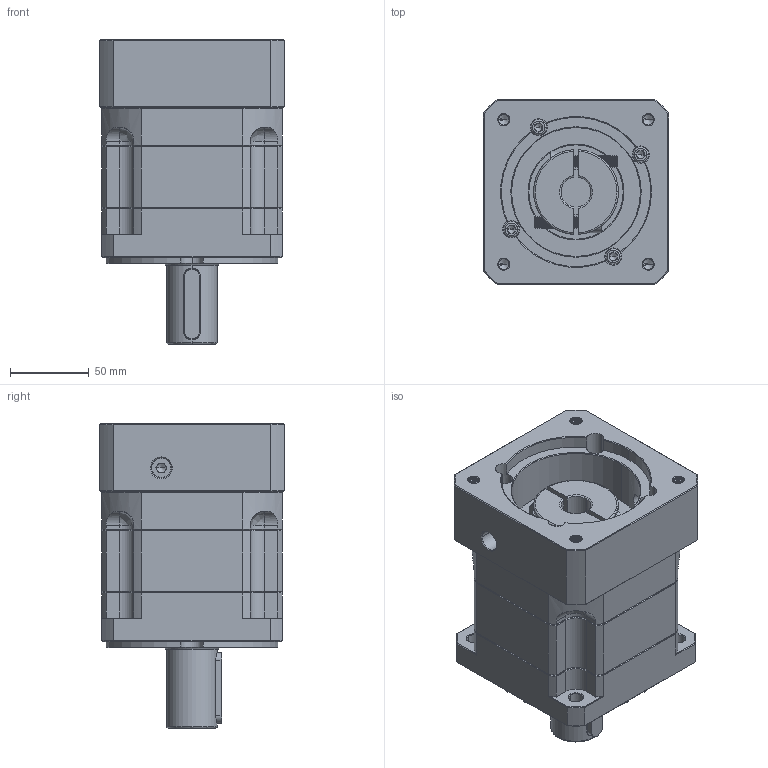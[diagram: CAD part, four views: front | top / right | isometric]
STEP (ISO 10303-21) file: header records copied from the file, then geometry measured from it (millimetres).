
FILE_DESCRIPTION (( 'STEP AP214' ), '1' );
FILE_NAME ('ZB115A-D32-L1-P2-19-95-130-M8.step', '2023-08-26T06:28:17', ( '' ), ( '' ), 'SwSTEP 2.0', 'SolidWorks 2016', '' );
FILE_SCHEMA (( 'AUTOMOTIVE_DESIGN' ));
Length unit declared in the file: millimetre
Products named in the file (1): ZB115A-D32-L1-P2-19-95-130-M8
Bounding box: 118 x 118 x 193.5 mm (x, y, z)
Volume: 1580441.2 mm3; surface area: 170647.9 mm2
Topology: 6 solids, 6 shells, 2403 faces, 6322 edges, 4015 vertices
Faces by surface type: plane 1144, cylinder 444, bspline 423, cone 372, torus 20
Entity records: 129888 total; most frequent: CARTESIAN_POINT 47738, ORIENTED_EDGE 12576, DIRECTION 9963, EDGE_CURVE 6288, VERTEX_POINT 4015, VECTOR 4005, LINE 4005, AXIS2_PLACEMENT_3D 2979
